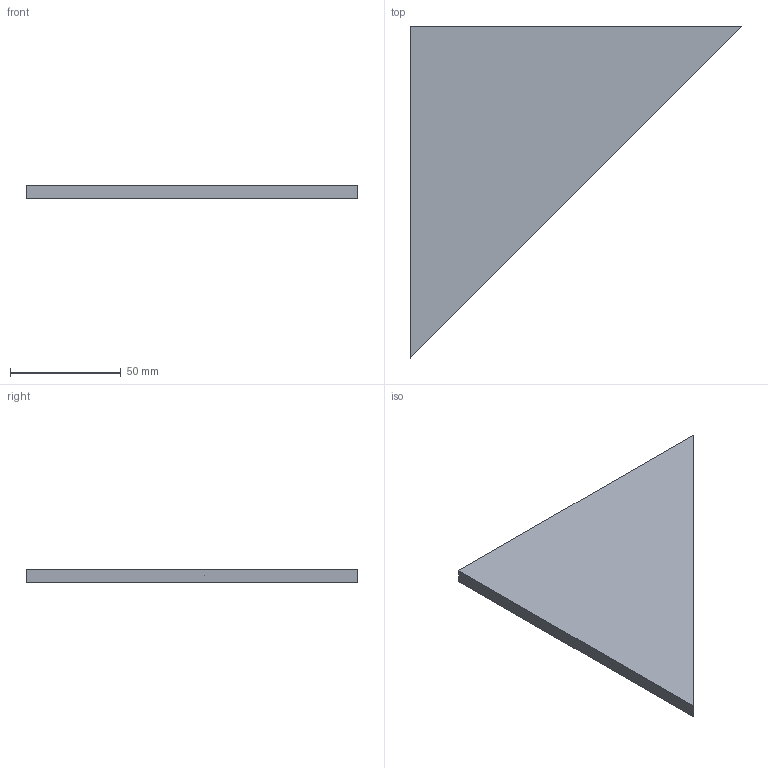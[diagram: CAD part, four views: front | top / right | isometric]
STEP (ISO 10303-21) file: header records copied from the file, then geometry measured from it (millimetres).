
FILE_DESCRIPTION(('Open CASCADE Model'),'2;1');
FILE_NAME('Open CASCADE Shape Model','2026-10-19T10:09:26',('Author'),( 'Open CASCADE'),'Open CASCADE STEP processor 8.0','Open CASCADE 8.0' ,'Unknown');
FILE_SCHEMA(('AUTOMOTIVE_DESIGN { 1 0 10303 214 1 1 1 1 }'));
Length unit declared in the file: millimetre
Products named in the file (1): AC_CARTELA_150x150x6 164
Bounding box: 150 x 150 x 6 mm (x, y, z)
Volume: 67500 mm3; surface area: 25572.8 mm2
Topology: 1 solids, 1 shells, 5 faces, 9 edges, 6 vertices
Faces by surface type: plane 5
Entity records: 250 total; most frequent: CARTESIAN_POINT 39, DIRECTION 39, LINE 27, VECTOR 27, ORIENTED_EDGE 18, PCURVE 18, DEFINITIONAL_REPRESENTATION 18, EDGE_CURVE 9
